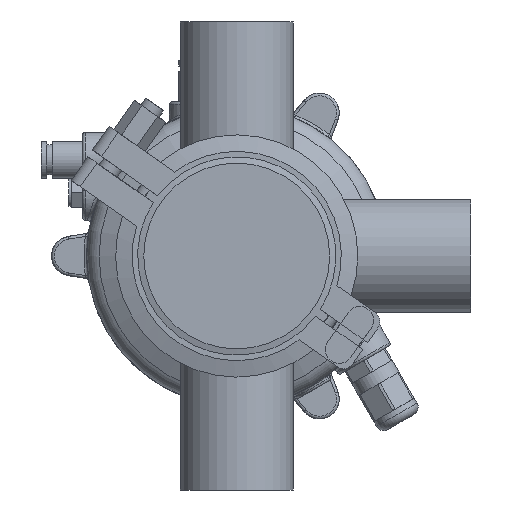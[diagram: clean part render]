
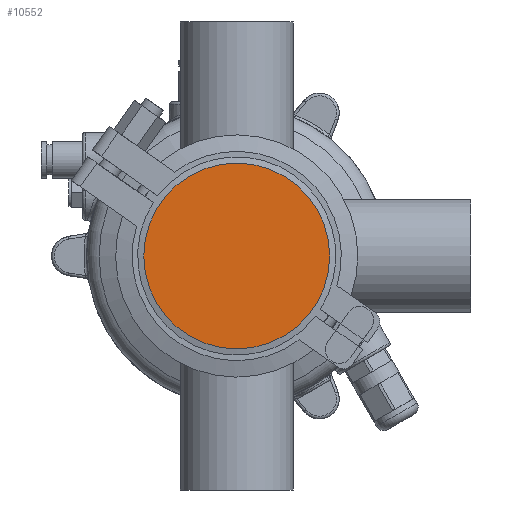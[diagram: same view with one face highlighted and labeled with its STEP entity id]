
A CAD part, front view. The second image highlights one B-rep face of the part: STEP entity #10552.
In plain terms, the highlighted planar face has unit normal (0, -1, 0).
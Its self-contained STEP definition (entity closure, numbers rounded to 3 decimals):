
#7230 = DIRECTION ( 'NONE',  ( 0., 0., 1. ) ) ;
#8586 = PLANE ( 'NONE',  #35811 ) ;
#10552 = ADVANCED_FACE ( 'NONE', ( #32243 ), #8586, .T. ) ;
#11535 = CARTESIAN_POINT ( 'NONE',  ( 0., 0., 0. ) ) ;
#13819 = CARTESIAN_POINT ( 'NONE',  ( 0., 0., 33.75 ) ) ;
#21960 = AXIS2_PLACEMENT_3D ( 'NONE', #11535, #43777, #7230 ) ;
#22260 = CARTESIAN_POINT ( 'NONE',  ( -33.75, 0., 0. ) ) ;
#23188 = VERTEX_POINT ( 'NONE', #13819 ) ;
#30169 = EDGE_LOOP ( 'NONE', ( #49785 ) ) ;
#32243 = FACE_OUTER_BOUND ( 'NONE', #30169, .T. ) ;
#34575 = EDGE_CURVE ( 'NONE', #23188, #23188, #39417, .T. ) ;
#35811 = AXIS2_PLACEMENT_3D ( 'NONE', #22260, #40532, #45144 ) ;
#39417 = CIRCLE ( 'NONE', #21960, 33.75 ) ;
#40532 = DIRECTION ( 'NONE',  ( 0., -1., 0. ) ) ;
#43777 = DIRECTION ( 'NONE',  ( 0., 1., 0. ) ) ;
#45144 = DIRECTION ( 'NONE',  ( 0., 0., -1. ) ) ;
#49785 = ORIENTED_EDGE ( 'NONE', *, *, #34575, .F. ) ;
